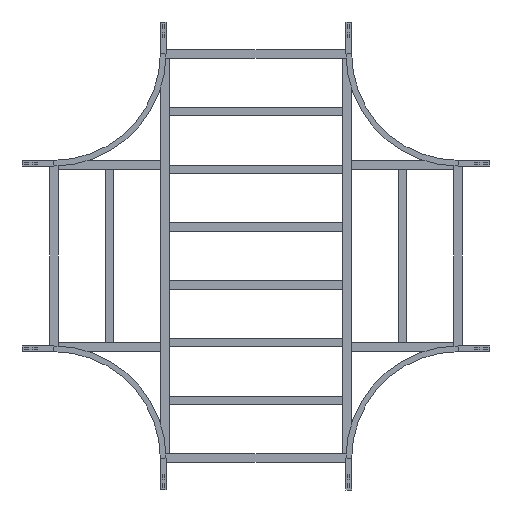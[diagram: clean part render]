
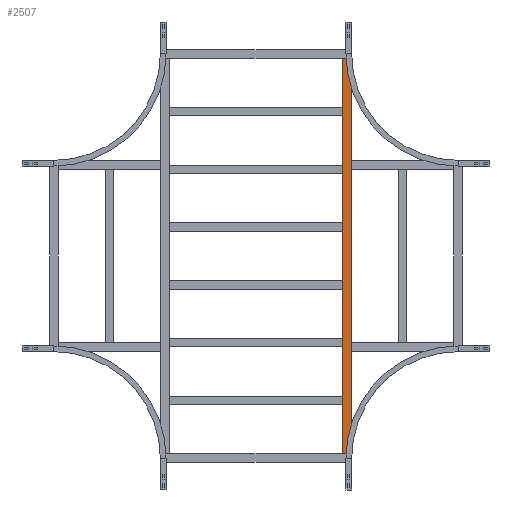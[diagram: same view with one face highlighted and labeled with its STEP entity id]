
A CAD part, front view. The second image highlights one B-rep face of the part: STEP entity #2507.
In plain terms, the highlighted planar face has unit normal (0, -1, 0).
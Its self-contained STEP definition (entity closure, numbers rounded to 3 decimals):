
#81 = EDGE_CURVE ( 'NONE', #362, #1800, #2727, .T. ) ;
#133 = CARTESIAN_POINT ( 'NONE',  ( -929.75, 0., 20.25 ) ) ;
#362 = VERTEX_POINT ( 'NONE', #1423 ) ;
#425 = VERTEX_POINT ( 'NONE', #2246 ) ;
#472 = DIRECTION ( 'NONE',  ( 0., 0., 1. ) ) ;
#658 = AXIS2_PLACEMENT_3D ( 'NONE', #725, #2255, #472 ) ;
#676 = DIRECTION ( 'NONE',  ( -1., 0., 0. ) ) ;
#725 = CARTESIAN_POINT ( 'NONE',  ( 929.75, 0., 20.25 ) ) ;
#798 = VECTOR ( 'NONE', #676, 1000. ) ;
#811 = CARTESIAN_POINT ( 'NONE',  ( 929.75, 0., -20.25 ) ) ;
#855 = LINE ( 'NONE', #2715, #798 ) ;
#906 = VERTEX_POINT ( 'NONE', #133 ) ;
#921 = EDGE_CURVE ( 'NONE', #1800, #425, #2188, .T. ) ;
#978 = ORIENTED_EDGE ( 'NONE', *, *, #81, .F. ) ;
#1080 = VECTOR ( 'NONE', #1725, 1000. ) ;
#1105 = ORIENTED_EDGE ( 'NONE', *, *, #921, .F. ) ;
#1311 = DIRECTION ( 'NONE',  ( 0., 0., -1. ) ) ;
#1423 = CARTESIAN_POINT ( 'NONE',  ( 929.75, 0., 20.25 ) ) ;
#1502 = CARTESIAN_POINT ( 'NONE',  ( 929.75, 0., -20.25 ) ) ;
#1521 = EDGE_CURVE ( 'NONE', #906, #425, #2871, .T. ) ;
#1529 = EDGE_CURVE ( 'NONE', #362, #906, #855, .T. ) ;
#1675 = VECTOR ( 'NONE', #2756, 1000. ) ;
#1725 = DIRECTION ( 'NONE',  ( -1., 0., 0. ) ) ;
#1800 = VERTEX_POINT ( 'NONE', #811 ) ;
#1826 = PLANE ( 'NONE',  #658 ) ;
#2188 = LINE ( 'NONE', #1502, #1080 ) ;
#2246 = CARTESIAN_POINT ( 'NONE',  ( -929.75, 0., -20.25 ) ) ;
#2255 = DIRECTION ( 'NONE',  ( 0., 1., 0. ) ) ;
#2307 = CARTESIAN_POINT ( 'NONE',  ( 929.75, 0., 20.25 ) ) ;
#2315 = FACE_OUTER_BOUND ( 'NONE', #2409, .T. ) ;
#2354 = ORIENTED_EDGE ( 'NONE', *, *, #1521, .T. ) ;
#2409 = EDGE_LOOP ( 'NONE', ( #2354, #1105, #978, #2863 ) ) ;
#2507 = ADVANCED_FACE ( 'NONE', ( #2315 ), #1826, .F. ) ;
#2603 = VECTOR ( 'NONE', #1311, 1000. ) ;
#2715 = CARTESIAN_POINT ( 'NONE',  ( 929.75, 0., 20.25 ) ) ;
#2727 = LINE ( 'NONE', #2307, #1675 ) ;
#2756 = DIRECTION ( 'NONE',  ( 0., 0., -1. ) ) ;
#2863 = ORIENTED_EDGE ( 'NONE', *, *, #1529, .T. ) ;
#2871 = LINE ( 'NONE', #2888, #2603 ) ;
#2888 = CARTESIAN_POINT ( 'NONE',  ( -929.75, 0., 20.25 ) ) ;
